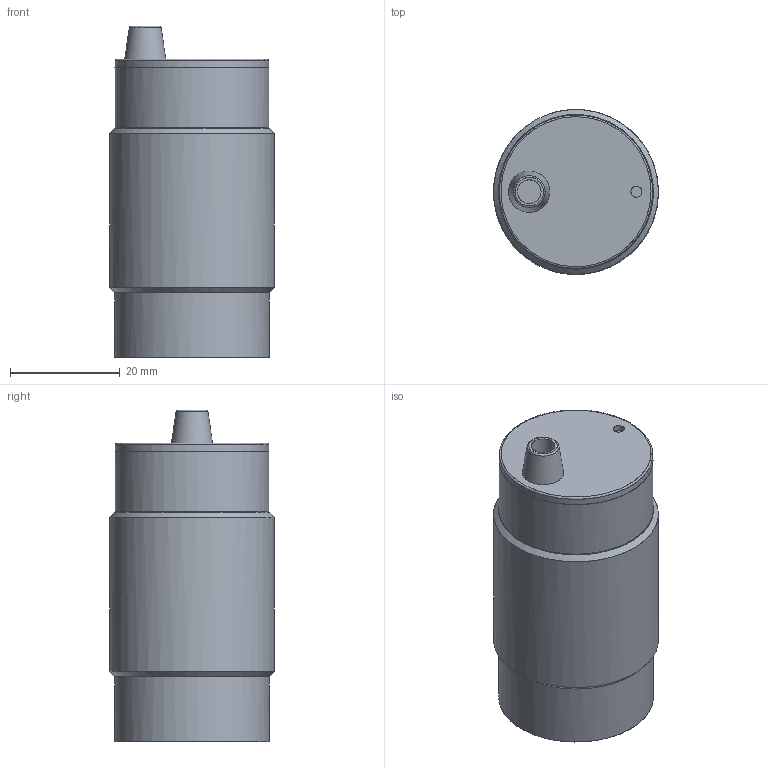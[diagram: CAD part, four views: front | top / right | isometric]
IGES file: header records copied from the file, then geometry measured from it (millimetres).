
Global section: file name: c:\studi10\DSD-0299.igs; preprocessor: I-DEAS 3D IGES Translator 13; date: 20100119.163109; units: millimetre
Bounding box: 29.98 x 29.98 x 60.3 mm (x, y, z)
Surface area: 17134 mm2 (no closed solid volume)
Topology: 0 solids, 0 shells, 50 faces, 368 edges, 304 vertices
Faces by surface type: bspline 50
